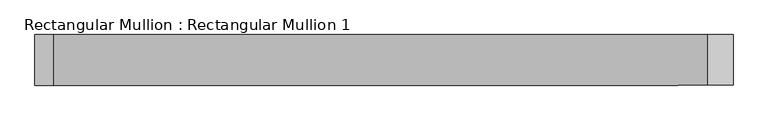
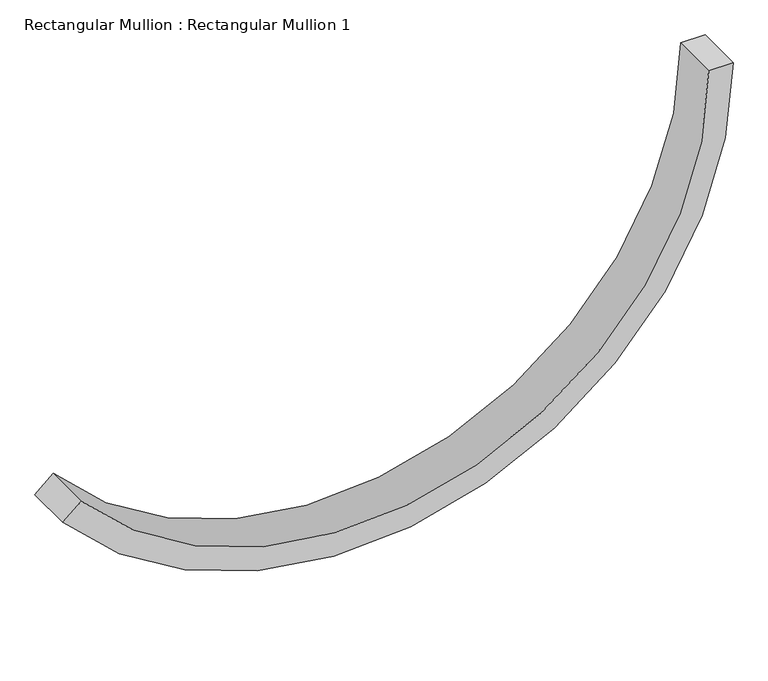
"""IFC4 building model written with IfcOpenShell, lengths in millimetres: member geometry, Rectangular Mullion : Rectangular Mullion 1."""

from ifc_helpers import new_model, si_unit, point, frame, frame_2d, origin, place, context, project, spatial, polyline, circle_curve, trimmed, segment, composite_curve, outline, extrude, source, transform, mapped, element, save


def rectangular_mullion_rectangular_mullion_1_8472e7ee(model_context):
    return source(origin(), model_context, "Body", "SweptSolid", [
        extrude(outline(composite_curve([segment(trimmed(circle_curve(frame_2d((0.0, -1000.0)), 1000.0), [point((-657.638874, -1753.3333335))], [point((0.0, 0.0))], False, "CARTESIAN"), True, "CONTINUOUS"), segment(polyline([(0.0, 0.0), (0.0, -63.5)]), True, "CONTINUOUS"), segment(trimmed(circle_curve(frame_2d((0.0, -1000.0)), 936.5), [point((0.0, -63.5))], [point((-615.8788055, -1705.4966669))], True, "CARTESIAN"), True, "CONTINUOUS"), segment(polyline([(-615.8788055, -1705.4966669), (-657.638874, -1753.3333335)]), True, "CONTINUOUS")], self_intersect=False)), frame((0.0, -63.5, 0.0), z_axis=(0.0, 1.0, 0.0), x_axis=(0.0, 0.0, 1.0)), (0.0, 0.0, 1.0), 127.0),
    ])


if __name__ == "__main__":
    model = new_model("IFC4")
    model_context = context("Model", 3, world=origin())
    ifc_project = project(units=[si_unit("LENGTHUNIT", "METRE", prefix="MILLI")], contexts=[model_context])
    site = spatial("IfcSite", under=ifc_project)
    building = spatial("IfcBuilding", under=site)
    placement = place(None, origin())
    rectangular_mullion_rectangular_mullion_1_shape = rectangular_mullion_rectangular_mullion_1_8472e7ee(model_context)
    element("IfcMember", 1, ObjectType="Rectangular Mullion : Rectangular Mullion 1", at=placement, inside=building, context=model_context, shape_type="MappedRepresentation", body=[
        mapped(rectangular_mullion_rectangular_mullion_1_shape, transform((0.0, 0.0, 0.0), x_axis=(1.0, 0.0, 0.0), y_axis=(0.0, 1.0, 0.0), z_axis=(0.0, 0.0, 1.0))),
    ])
    save(model, "model.ifc")
